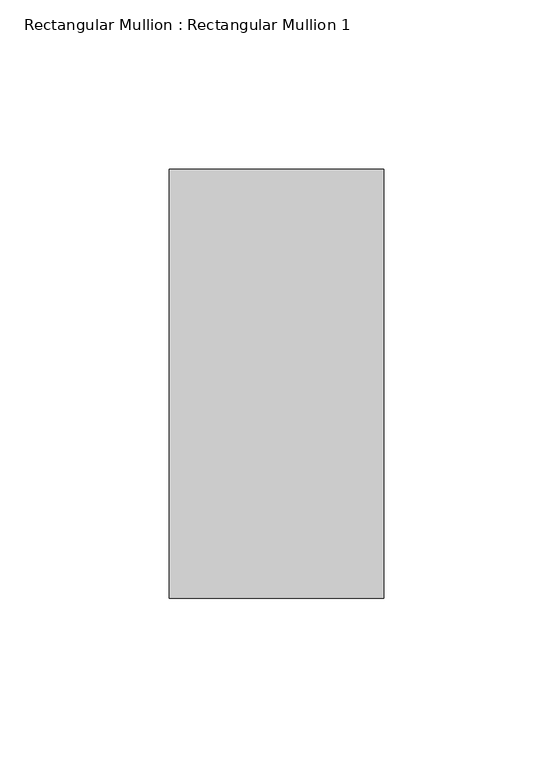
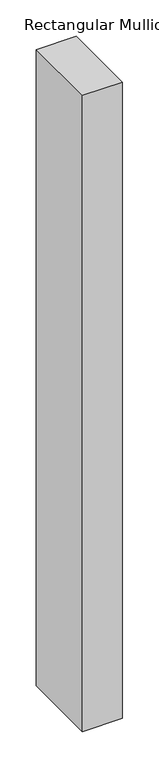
"""IFC4 building model written with IfcOpenShell, lengths in millimetres: member geometry, Rectangular Mullion : Rectangular Mullion 1."""

from ifc_helpers import new_model, si_unit, frame, origin, place, context, project, spatial, polyline, outline, extrude, source, transform, mapped, element, save


def rectangular_mullion_rectangular_mullion_1_2f44623a(model_context):
    return source(origin(), model_context, "Body", "SweptSolid", [
        extrude(outline(polyline([(0.0, 63.5), (0.0, -63.5), (-63.5, -63.5), (-63.5, 63.5), (0.0, 63.5)])), frame((0.0, 0.0, -1070.1666665), z_axis=(0.0, 0.0, 1.0), x_axis=(1.0, 0.0, 0.0)), (0.0, 0.0, 1.0), 1070.1666665),
    ])


if __name__ == "__main__":
    model = new_model("IFC4")
    model_context = context("Model", 3, world=origin())
    ifc_project = project(units=[si_unit("LENGTHUNIT", "METRE", prefix="MILLI")], contexts=[model_context])
    site = spatial("IfcSite", under=ifc_project)
    building = spatial("IfcBuilding", under=site)
    placement = place(None, origin())
    rectangular_mullion_rectangular_mullion_1_shape = rectangular_mullion_rectangular_mullion_1_2f44623a(model_context)
    element("IfcMember", 1, ObjectType="Rectangular Mullion : Rectangular Mullion 1", at=placement, inside=building, context=model_context, shape_type="MappedRepresentation", body=[
        mapped(rectangular_mullion_rectangular_mullion_1_shape, transform((0.0, 0.0, 0.0), x_axis=(1.0, 0.0, 0.0), y_axis=(0.0, 1.0, 0.0), z_axis=(0.0, 0.0, 1.0))),
    ])
    save(model, "model.ifc")
